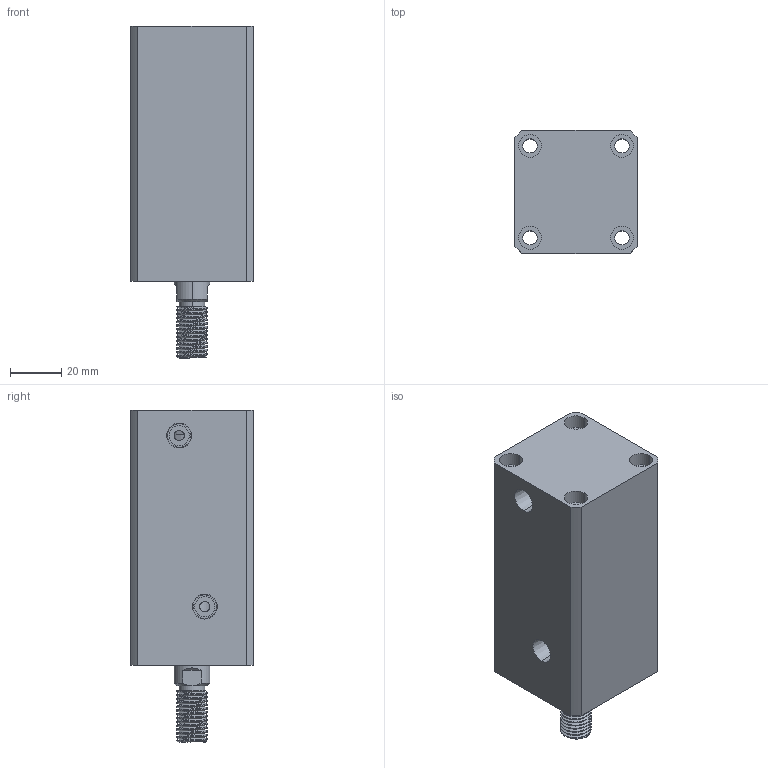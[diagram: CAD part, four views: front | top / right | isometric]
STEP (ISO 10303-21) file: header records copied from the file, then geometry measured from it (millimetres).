
FILE_DESCRIPTION (( 'STEP AP214' ), '1' );
FILE_NAME ('chtb-sd25x55w_asm.STEP', '2018-05-22T09:37:29', ( 'Windows' ), ( 'Microsoft' ), 'SwSTEP 2.0', 'SolidWorks 2015', '' );
FILE_SCHEMA (( 'AUTOMOTIVE_DESIGN' ));
Length unit declared in the file: millimetre
Products named in the file (4): CHTB-SD25X55WHSG; CHTB-SD25X55NBT; CHTB-25QG; chtb-sd25x55w_asm
Assembly tree (3 placements, depth 2):
  chtb-sd25x55w_asm
    CHTB-25QG
    CHTB-SD25X55NBT
    CHTB-SD25X55WHSG
Bounding box: 48 x 48 x 130 mm (x, y, z)
Volume: 199993.8 mm3; surface area: 51136.7 mm2
Topology: 3 solids, 3 shells, 178 faces, 474 edges, 323 vertices
Faces by surface type: cylinder 113, plane 39, cone 14, bspline 12
Entity records: 10610 total; most frequent: CARTESIAN_POINT 6273, ORIENTED_EDGE 940, DIRECTION 778, EDGE_CURVE 470, VERTEX_POINT 323, AXIS2_PLACEMENT_3D 317, EDGE_LOOP 217, FACE_OUTER_BOUND 178
